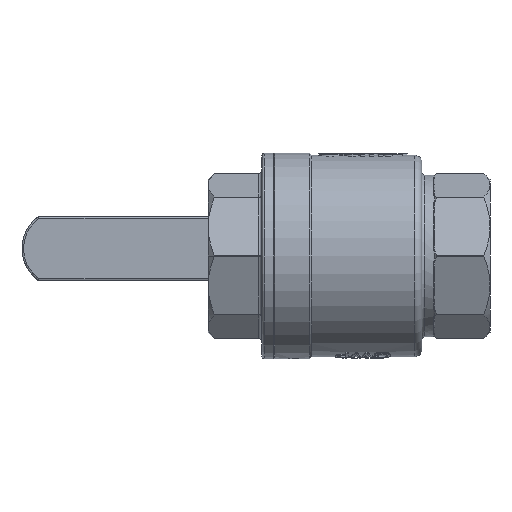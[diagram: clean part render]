
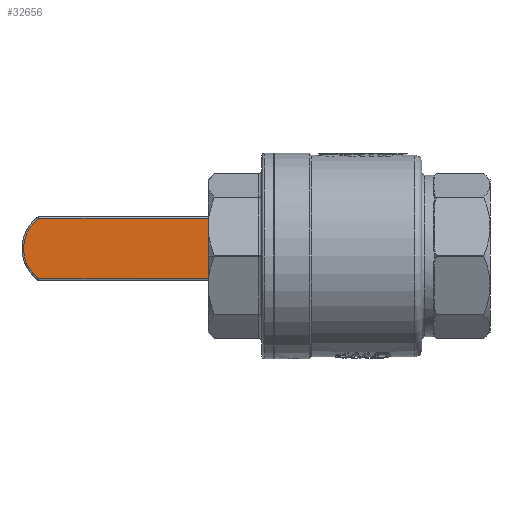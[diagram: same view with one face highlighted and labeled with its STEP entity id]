
A CAD part, front view. The second image highlights one B-rep face of the part: STEP entity #32656.
In plain terms, the highlighted planar face has unit normal (0, -1, 0).
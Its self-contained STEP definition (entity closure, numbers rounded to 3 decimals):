
#4254 = DIRECTION ( 'NONE',  ( -1., 0., 0. ) ) ;
#7896 = EDGE_CURVE ( 'NONE', #68010, #40991, #80235, .T. ) ;
#10438 = FACE_OUTER_BOUND ( 'NONE', #61876, .T. ) ;
#11273 = VECTOR ( 'NONE', #18352, 1000. ) ;
#18352 = DIRECTION ( 'NONE',  ( -1., 0., 0. ) ) ;
#20529 = CARTESIAN_POINT ( 'NONE',  ( -24.5, -6., 0. ) ) ;
#21585 = LINE ( 'NONE', #105316, #11273 ) ;
#22996 = DIRECTION ( 'NONE',  ( 0., 0., -1. ) ) ;
#31896 = CARTESIAN_POINT ( 'NONE',  ( -10.002, -6., -19.75 ) ) ;
#32656 = ADVANCED_FACE ( 'NONE', ( #10438 ), #93500, .F. ) ;
#39225 = CARTESIAN_POINT ( 'NONE',  ( -146.531, -6., -19.75 ) ) ;
#40991 = VERTEX_POINT ( 'NONE', #78962 ) ;
#51314 = CARTESIAN_POINT ( 'NONE',  ( -146.031, -6., 19.75 ) ) ;
#56892 = LINE ( 'NONE', #39225, #111946 ) ;
#59332 = ORIENTED_EDGE ( 'NONE', *, *, #7896, .T. ) ;
#59666 = AXIS2_PLACEMENT_3D ( 'NONE', #20529, #85317, #73836 ) ;
#61876 = EDGE_LOOP ( 'NONE', ( #114033, #59332, #137073, #71734 ) ) ;
#68010 = VERTEX_POINT ( 'NONE', #51314 ) ;
#71734 = ORIENTED_EDGE ( 'NONE', *, *, #99809, .T. ) ;
#73395 = VECTOR ( 'NONE', #22996, 1000. ) ;
#73836 = DIRECTION ( 'NONE',  ( -1., 0., 0. ) ) ;
#78116 = AXIS2_PLACEMENT_3D ( 'NONE', #104012, #116086, #4254 ) ;
#78962 = CARTESIAN_POINT ( 'NONE',  ( -146.031, -6., -19.75 ) ) ;
#80235 = LINE ( 'NONE', #89206, #73395 ) ;
#81572 = CARTESIAN_POINT ( 'NONE',  ( -10.002, -6., 19.75 ) ) ;
#85317 = DIRECTION ( 'NONE',  ( 0., -1., 0. ) ) ;
#89206 = CARTESIAN_POINT ( 'NONE',  ( -146.031, -6., 19.75 ) ) ;
#93500 = PLANE ( 'NONE',  #78116 ) ;
#99809 = EDGE_CURVE ( 'NONE', #106658, #100965, #101800, .T. ) ;
#100965 = VERTEX_POINT ( 'NONE', #81572 ) ;
#101800 = CIRCLE ( 'NONE', #59666, 24.5 ) ;
#104012 = CARTESIAN_POINT ( 'NONE',  ( -146.531, -6., 19.75 ) ) ;
#104026 = EDGE_CURVE ( 'NONE', #40991, #106658, #56892, .T. ) ;
#105316 = CARTESIAN_POINT ( 'NONE',  ( -146.531, -6., 19.75 ) ) ;
#106658 = VERTEX_POINT ( 'NONE', #31896 ) ;
#111946 = VECTOR ( 'NONE', #139609, 1000. ) ;
#113239 = EDGE_CURVE ( 'NONE', #100965, #68010, #21585, .T. ) ;
#114033 = ORIENTED_EDGE ( 'NONE', *, *, #113239, .T. ) ;
#116086 = DIRECTION ( 'NONE',  ( 0., 1., 0. ) ) ;
#137073 = ORIENTED_EDGE ( 'NONE', *, *, #104026, .T. ) ;
#139609 = DIRECTION ( 'NONE',  ( 1., 0., 0. ) ) ;
